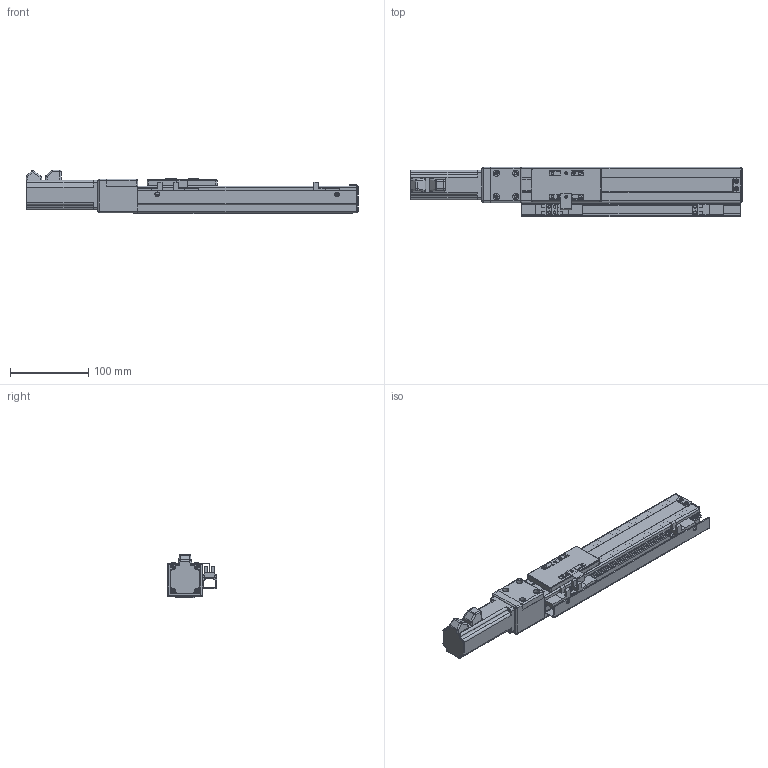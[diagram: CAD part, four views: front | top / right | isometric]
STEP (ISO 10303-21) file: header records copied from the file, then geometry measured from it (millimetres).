
FILE_DESCRIPTION (( 'STEP AP203' ), '1' );
FILE_NAME ('VT4-L12-C-S160-BC-P10-C4.STEP', '2015-10-26T03:44:51', ( '' ), ( '' ), 'SwSTEP 2.0', 'SolidWorks 2013', '' );
FILE_SCHEMA (( 'CONFIG_CONTROL_DESIGN' ));
Length unit declared in the file: millimetre
Products named in the file (15): T4-裔啣; T4-揤輸; T4-覜茼え; T4-BCヶ傷裔-100; T6-癹弇羲壽羞_俴最160; T4-賑雄殤; T4-BC 詩湍; EE-SX674-WR; 侂狟100W MSMD012G1U; T4-耜啣羲耀芞2_俴最160; SFKR0802佪裝TBI_俴最160; T4-綴傷裔; T4-BCヶ傷裔揤啣; VT4-L12-C-S160-BC-P10-C4; MGW12C-絳寢_俴最160
Assembly tree (17 placements, depth 2):
  VT4-L12-C-S160-BC-P10-C4
    T4-綴傷裔
    T4-耜啣羲耀芞2_俴最160  x2
    T4-賑雄殤
    T4-裔啣
    T4-揤輸
    T4-覜茼え
    T6-癹弇羲壽羞_俴最160
    EE-SX674-WR  x3
    SFKR0802佪裝TBI_俴最160
    MGW12C-絳寢_俴最160
    T4-BCヶ傷裔-100
    T4-BCヶ傷裔揤啣
    T4-BC 詩湍
    侂狟100W MSMD012G1U
Bounding box: 425 x 63 x 56 mm (x, y, z)
Volume: 410071 mm3; surface area: 234768.8 mm2
Topology: 20 solids, 20 shells, 1151 faces, 3072 edges, 1940 vertices
Faces by surface type: plane 533, cylinder 508, cone 56, torus 30, sphere 24
Entity records: 31656 total; most frequent: CARTESIAN_POINT 5849, DIRECTION 5219, ORIENTED_EDGE 4920, EDGE_CURVE 2460, AXIS2_PLACEMENT_3D 1878, VERTEX_POINT 1574, VECTOR 1463, LINE 1463
